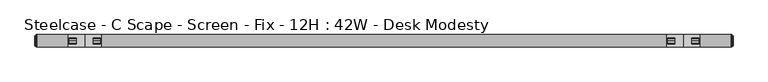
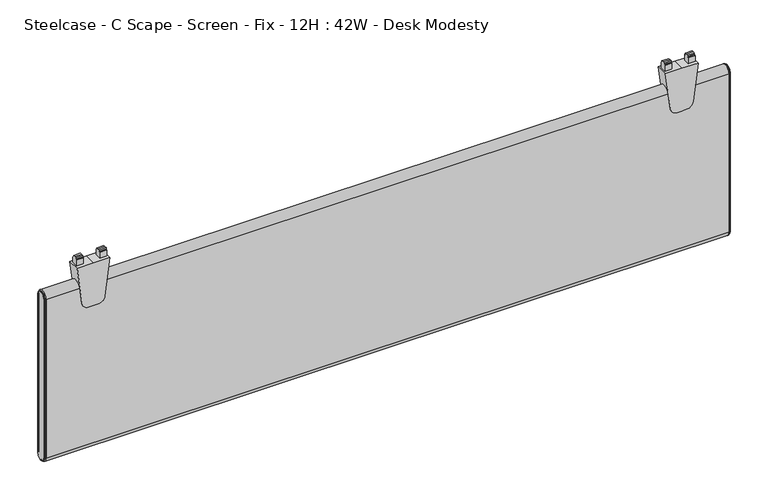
"""IFC4 building model written with IfcOpenShell, lengths in millimetres: furniture geometry, Steelcase - C Scape - Screen - Fix - 12H : 42W - Desk Modesty."""

from ifc_helpers import new_model, si_unit, point, frame, frame_2d, origin, place, context, project, spatial, polyline, circle_curve, ellipse_curve, trimmed, segment, composite_curve, outline, extrude, source, transform, mapped, element, save
from ifc_brep_helpers import plane_surface, cylinder_surface, revolved_surface, advanced_brep


def steelcase_c_scape_screen_fix_12h_42w_desk_modesty_56eae4fc(model_context):
    return source(origin(), model_context, "Body", "SolidModel", [
        extrude(outline(composite_curve([segment(polyline([(703.414888, 101.4730434), (703.414888, 76.2001674), (703.414888, 50.9272915), (643.0897579, 58.3341853)]), True, "CONTINUOUS"), segment(trimmed(circle_curve(frame_2d((644.4116282, 69.1001018)), 10.8467645), [point((643.0897579, 58.3341853))], [point((633.5648638, 69.1001018))], False, "CARTESIAN"), True, "CONTINUOUS"), segment(polyline([(633.5648638, 69.1001018), (633.5648638, 76.2001674), (633.5648638, 83.300233)]), True, "CONTINUOUS"), segment(trimmed(circle_curve(frame_2d((644.4116282, 83.300233)), 10.8467645), [point((633.5648638, 83.300233))], [point((643.0897579, 94.0661495))], False, "CARTESIAN"), True, "CONTINUOUS"), segment(polyline([(643.0897579, 94.0661495), (703.414888, 101.4730434)]), True, "CONTINUOUS")], self_intersect=False)), frame((0.0, -9.525, 0.0), z_axis=(0.0, 1.0, 0.0), x_axis=(0.0, 0.0, 1.0)), (0.0, 0.0, 1.0), 19.05),
        extrude(outline(polyline([(-4.5465975, 703.414888), (-4.5465975, 713.3208967), (-4.0139265, 714.2073252), (-2.9972008, 714.2073252), (-2.9972008, 716.4425812), (0.0, 716.534), (2.9972008, 716.4425812), (2.9972008, 714.2073252), (4.0139265, 714.2073252), (4.5465975, 713.3208967), (4.5465975, 703.414888), (0.0, 703.414888), (-4.5465975, 703.414888)])), frame((88.9267162, 0.0, 0.0), z_axis=(1.0, 0.0, 0.0), x_axis=(0.0, 1.0, 0.0)), (0.0, 0.0, 1.0), 10.7813187),
        extrude(outline(polyline([(-4.5465975, 703.414888), (-4.5465975, 713.3208967), (-4.0139265, 714.2073252), (-2.9972008, 714.2073252), (-2.9972008, 716.4425812), (0.0, 716.534), (2.9972008, 716.4425812), (2.9972008, 714.2073252), (4.0139265, 714.2073252), (4.5465975, 713.3208967), (4.5465975, 703.414888), (0.0, 703.414888), (-4.5465975, 703.414888)])), frame((52.6923, 0.0, 0.0), z_axis=(1.0, 0.0, 0.0), x_axis=(0.0, 1.0, 0.0)), (0.0, 0.0, 1.0), 10.7813187),
        extrude(outline(composite_curve([segment(polyline([(703.414888, 1015.1107132), (703.414888, 989.8378372), (703.414888, 964.5649612), (643.0897579, 971.9718551)]), True, "CONTINUOUS"), segment(trimmed(circle_curve(frame_2d((644.4116282, 982.7377716)), 10.8467645), [point((643.0897579, 971.9718551))], [point((633.5648638, 982.7377716))], False, "CARTESIAN"), True, "CONTINUOUS"), segment(polyline([(633.5648638, 982.7377716), (633.5648638, 989.8378372), (633.5648638, 996.9379028)]), True, "CONTINUOUS"), segment(trimmed(circle_curve(frame_2d((644.4116282, 996.9379028)), 10.8467645), [point((633.5648638, 996.9379028))], [point((643.0897579, 1007.7038193))], False, "CARTESIAN"), True, "CONTINUOUS"), segment(polyline([(643.0897579, 1007.7038193), (703.414888, 1015.1107132)]), True, "CONTINUOUS")], self_intersect=False)), frame((0.0, -9.525, 0.0), z_axis=(0.0, 1.0, 0.0), x_axis=(0.0, 0.0, 1.0)), (0.0, 0.0, 1.0), 19.05),
        extrude(outline(polyline([(-4.5465975, 703.414888), (-4.5465975, 713.3208967), (-4.0139265, 714.2073252), (-2.9972008, 714.2073252), (-2.9972008, 716.4425812), (0.0, 716.534), (2.9972008, 716.4425812), (2.9972008, 714.2073252), (4.0139265, 714.2073252), (4.5465975, 713.3208967), (4.5465975, 703.414888), (0.0, 703.414888), (-4.5465975, 703.414888)])), frame((1002.564386, 0.0, 0.0), z_axis=(1.0, 0.0, 0.0), x_axis=(0.0, 1.0, 0.0)), (0.0, 0.0, 1.0), 10.7813187),
        extrude(outline(polyline([(-4.5465975, 703.414888), (-4.5465975, 713.3208967), (-4.0139265, 714.2073252), (-2.9972008, 714.2073252), (-2.9972008, 716.4425812), (0.0, 716.534), (2.9972008, 716.4425812), (2.9972008, 714.2073252), (4.0139265, 714.2073252), (4.5465975, 713.3208967), (4.5465975, 703.414888), (0.0, 703.414888), (-4.5465975, 703.414888)])), frame((966.3299698, 0.0, 0.0), z_axis=(1.0, 0.0, 0.0), x_axis=(0.0, 1.0, 0.0)), (0.0, 0.0, 1.0), 10.7813187),
        advanced_brep(
        [(1063.2486613, -9.525, 668.909), (1063.2486613, 9.525, 668.909), (1063.2486613, 9.525, 408.559), (1063.2486613, -9.525, 408.559), (1066.0426613, 7.4929583, 668.909), (1066.0426613, -7.4929583, 668.909), (1066.0426613, -7.4929583, 408.559), (1066.0426613, 7.4929583, 408.559), (1065.5346545, -8.0009651, 668.909), (1065.5346545, 8.0009651, 668.909), (1064.2646613, 8.0009651, 668.909), (1064.2646613, -8.0009651, 668.909), (1064.2646613, -8.8204932, 668.909), (1064.2646613, 8.8204932, 668.909), (1064.2646613, -8.0009651, 408.559), (1065.5346545, -8.0009651, 408.559), (1064.2646613, -8.8204932, 408.559), (1064.2646613, 8.0009651, 408.559), (1065.5346545, 8.0009651, 408.559), (1064.2646613, 8.8204932, 408.559)],
        [
            (0, 1, circle_curve(frame((1063.2486613, 0.0, 668.909), z_axis=(-1.0, 0.0, 0.0), x_axis=(0.0, 1.0, 0.0)), 9.525)),
            (1, 2),
            (2, 3, circle_curve(frame((1063.2486613, 0.0, 408.559), z_axis=(-1.0, 0.0, 0.0), x_axis=(0.0, -1.0, 0.0)), 9.525)),
            (3, 0),
            (4, 5, circle_curve(frame((1066.0426613, 0.0, 668.909), z_axis=(1.0, 0.0, 0.0), x_axis=(0.0, 1.0, 0.0)), 7.4929583)),
            (5, 6),
            (6, 7, circle_curve(frame((1066.0426613, 0.0, 408.559), z_axis=(1.0, 0.0, 0.0), x_axis=(0.0, -1.0, 0.0)), 7.4929583)),
            (7, 4),
            (8, 9, circle_curve(frame((1065.5346545, 0.0, 668.909), z_axis=(-1.0, 0.0, 0.0), x_axis=(0.0, 1.0, 0.0)), 8.0009651)),
            (9, 10),
            (10, 11, circle_curve(frame((1064.2646613, 0.0, 668.909), z_axis=(1.0, 0.0, 0.0), x_axis=(0.0, 1.0, 0.0)), 8.0009651)),
            (11, 8),
            (8, 5, circle_curve(frame((1065.5346545, -7.4929583, 668.909), z_axis=(0.0, 0.0, 1.0), x_axis=(0.0, -1.0, 0.0)), 0.5080068)),
            (4, 9, circle_curve(frame((1065.5346545, 7.4929583, 668.909), z_axis=(0.0, 0.0, 1.0), x_axis=(0.0, 1.0, 0.0)), 0.5080068)),
            (12, 13, circle_curve(frame((1064.2646613, 0.0, 668.909), z_axis=(-1.0, 0.0, 0.0), x_axis=(0.0, 1.0, 0.0)), 8.8204932)),
            (13, 1, circle_curve(frame((1063.1806211, 8.3420139, 668.909), z_axis=(0.0, 0.0, 1.0), x_axis=(0.0, 1.0, 0.0)), 1.1849411)),
            (0, 12, circle_curve(frame((1063.1806211, -8.3420139, 668.909), z_axis=(0.0, 0.0, 1.0), x_axis=(0.0, -1.0, 0.0)), 1.1849411)),
            (11, 14),
            (14, 15),
            (15, 8),
            (15, 6, circle_curve(frame((1065.5346545, -7.4929583, 408.559), z_axis=(0.0, 0.0, 1.0), x_axis=(0.0, -1.0, 0.0)), 0.5080068)),
            (3, 16, circle_curve(frame((1063.1806211, -8.3420139, 408.559), z_axis=(0.0, 0.0, 1.0), x_axis=(0.0, -1.0, 0.0)), 1.1849411)),
            (16, 12),
            (14, 17, circle_curve(frame((1064.2646613, 0.0, 408.559), z_axis=(1.0, 0.0, 0.0), x_axis=(0.0, -1.0, 0.0)), 8.0009651)),
            (17, 18),
            (18, 15, circle_curve(frame((1065.5346545, 0.0, 408.559), z_axis=(-1.0, 0.0, 0.0), x_axis=(0.0, -1.0, 0.0)), 8.0009651)),
            (18, 7, circle_curve(frame((1065.5346545, 7.4929583, 408.559), z_axis=(0.0, 0.0, -1.0), x_axis=(0.0, 1.0, 0.0)), 0.5080068)),
            (2, 19, circle_curve(frame((1063.1806211, 8.3420139, 408.559), z_axis=(0.0, 0.0, -1.0), x_axis=(0.0, 1.0, 0.0)), 1.1849411)),
            (19, 16, circle_curve(frame((1064.2646613, 0.0, 408.559), z_axis=(-1.0, 0.0, 0.0), x_axis=(0.0, -1.0, 0.0)), 8.8204932)),
            (9, 18),
            (17, 10),
            (13, 19),
        ],
        [
            plane_surface(frame((1063.2486613, -6.3509705, 668.909), z_axis=(-1.0, 0.0, 0.0), x_axis=(0.0, 0.0, 1.0))),
            plane_surface(frame((1066.0426613, -6.3509705, 668.909), z_axis=(1.0, 0.0, 0.0), x_axis=(0.0, 0.0, -1.0))),
            cylinder_surface(frame((1063.2486613, 0.0, 668.909), z_axis=(1.0, 0.0, 0.0), x_axis=(0.0, 1.0, 0.0)), 8.0009651),
            revolved_surface(trimmed(ellipse_curve(frame((1065.5346545, 7.4929583, 668.909), z_axis=(0.0, 0.0, -1.0), x_axis=(0.0, 1.0, 0.0)), 0.5080068, 0.5080068), [point((1065.5346545, 8.0009651, 668.909))], [point((1066.0426613, 7.4929583, 668.909))], True, "CARTESIAN"), (1063.2486613, 0.0, 668.909), (1.0, 0.0, 0.0)),
            revolved_surface(trimmed(ellipse_curve(frame((1063.1806211, 8.3420139, 668.909), z_axis=(0.0, 0.0, -1.0), x_axis=(0.0, 1.0, 0.0)), 1.1849411, 1.1849411), [point((1063.2486613, 9.525, 668.909))], [point((1064.2646613, 8.8204932, 668.909))], True, "CARTESIAN"), (1063.2486613, 0.0, 668.909), (1.0, 0.0, 0.0)),
            plane_surface(frame((1064.2646613, -8.0009651, 668.909), z_axis=(0.0, -1.0, 0.0), x_axis=(0.0, 0.0, -1.0))),
            cylinder_surface(frame((1065.5346545, -7.4929583, 668.909), z_axis=(0.0, 0.0, 1.0), x_axis=(0.0, -1.0, 0.0)), 0.5080068),
            cylinder_surface(frame((1063.1806211, -8.3420139, 668.909), z_axis=(0.0, 0.0, 1.0), x_axis=(0.0, -1.0, 0.0)), 1.1849411),
            cylinder_surface(frame((1063.2486613, 0.0, 408.559), z_axis=(1.0, 0.0, 0.0), x_axis=(0.0, -1.0, 0.0)), 8.0009651),
            revolved_surface(trimmed(ellipse_curve(frame((1065.5346545, -7.4929583, 408.559), z_axis=(0.0, 0.0, 1.0), x_axis=(0.0, -1.0, 0.0)), 0.5080068, 0.5080068), [point((1065.5346545, -8.0009651, 408.559))], [point((1066.0426613, -7.4929583, 408.559))], True, "CARTESIAN"), (1063.2486613, 0.0, 408.559), (1.0, 0.0, 0.0)),
            revolved_surface(trimmed(ellipse_curve(frame((1063.1806211, -8.3420139, 408.559), z_axis=(0.0, 0.0, 1.0), x_axis=(0.0, -1.0, 0.0)), 1.1849411, 1.1849411), [point((1063.2486613, -9.525, 408.559))], [point((1064.2646613, -8.8204932, 408.559))], True, "CARTESIAN"), (1063.2486613, 0.0, 408.559), (1.0, 0.0, 0.0)),
            plane_surface(frame((1064.2646613, 8.0009651, 408.559), z_axis=(0.0, 1.0, 0.0), x_axis=(0.0, 0.0, 1.0))),
            cylinder_surface(frame((1065.5346545, 7.4929583, 408.559), z_axis=(0.0, 0.0, -1.0), x_axis=(0.0, 1.0, 0.0)), 0.5080068),
            cylinder_surface(frame((1063.1806211, 8.3420139, 408.559), z_axis=(0.0, 0.0, -1.0), x_axis=(0.0, 1.0, 0.0)), 1.1849411),
            plane_surface(frame((1064.2646613, 8.8204932, 408.559), z_axis=(1.0, 0.0, 0.0), x_axis=(0.0, 0.0, 1.0))),
        ],
        [
            (0, [[1, 2, 3, 4]]),
            (1, [[5, 6, 7, 8]]),
            (2, [[9, 10, 11, 12]]),
            (3, [[-9, 13, -5, 14]]),
            (4, [[15, 16, -1, 17]]),
            (5, [[-12, 18, 19, 20]]),
            (6, [[-13, -20, 21, -6]]),
            (7, [[-17, -4, 22, 23]]),
            (8, [[-19, 24, 25, 26]]),
            (9, [[-21, -26, 27, -7]]),
            (10, [[-22, -3, 28, 29]]),
            (11, [[-10, 30, -25, 31]]),
            (12, [[-14, -8, -27, -30]]),
            (13, [[-16, 32, -28, -2]]),
            (14, [[-15, -23, -29, -32], [-11, -31, -24, -18]]),
        ],
    ),
        advanced_brep(
        [(2.7940155, 9.525, 668.909), (2.7940155, -9.525, 668.909), (2.7940155, -9.525, 408.559), (2.7940155, 9.525, 408.559), (0.0, -7.4929583, 668.909), (0.0, 7.4929583, 668.909), (0.0, 7.4929583, 408.559), (0.0, -7.4929583, 408.559), (1.778, 8.8204932, 668.909), (1.778, -8.8204932, 668.909), (0.5080068, -8.0009651, 668.909), (0.5080068, 8.0009651, 668.909), (1.778, -8.0009651, 668.909), (1.778, 8.0009651, 668.909), (1.778, -8.8204932, 408.559), (0.5080068, -8.0009651, 408.559), (1.778, -8.0009651, 408.559), (1.778, 8.8204932, 408.559), (0.5080068, 8.0009651, 408.559), (1.778, 8.0009651, 408.559)],
        [
            (0, 1, circle_curve(frame((2.7940155, 0.0, 668.909), z_axis=(1.0, 0.0, 0.0), x_axis=(0.0, 1.0, 0.0)), 9.525)),
            (1, 2),
            (2, 3, circle_curve(frame((2.7940155, 0.0, 408.559), z_axis=(1.0, 0.0, 0.0), x_axis=(0.0, -1.0, 0.0)), 9.525)),
            (3, 0),
            (4, 5, circle_curve(frame((0.0, 0.0, 668.909), z_axis=(-1.0, 0.0, 0.0), x_axis=(0.0, 1.0, 0.0)), 7.4929583)),
            (5, 6),
            (6, 7, circle_curve(frame((0.0, 0.0, 408.559), z_axis=(-1.0, 0.0, 0.0), x_axis=(0.0, -1.0, 0.0)), 7.4929583)),
            (7, 4),
            (0, 8, circle_curve(frame((2.8620402, 8.3420139, 668.909), z_axis=(0.0, 0.0, 1.0), x_axis=(0.0, -1.0, 0.0)), 1.1849411)),
            (8, 9, circle_curve(frame((1.778, 0.0, 668.909), z_axis=(1.0, 0.0, 0.0), x_axis=(0.0, 1.0, 0.0)), 8.8204932)),
            (9, 1, circle_curve(frame((2.8620402, -8.3420139, 668.909), z_axis=(0.0, 0.0, 1.0), x_axis=(0.0, 1.0, 0.0)), 1.1849411)),
            (10, 11, circle_curve(frame((0.5080068, 0.0, 668.909), z_axis=(-1.0, 0.0, 0.0), x_axis=(0.0, 1.0, 0.0)), 8.0009651)),
            (11, 5, circle_curve(frame((0.5080068, 7.4929583, 668.909), z_axis=(0.0, 0.0, 1.0), x_axis=(0.0, -1.0, 0.0)), 0.5080068)),
            (4, 10, circle_curve(frame((0.5080068, -7.4929583, 668.909), z_axis=(0.0, 0.0, 1.0), x_axis=(0.0, 1.0, 0.0)), 0.5080068)),
            (10, 12),
            (12, 13, circle_curve(frame((1.778, 0.0, 668.909), z_axis=(-1.0, 0.0, 0.0), x_axis=(0.0, 1.0, 0.0)), 8.0009651)),
            (13, 11),
            (9, 14),
            (14, 2, circle_curve(frame((2.8620402, -8.3420139, 408.559), z_axis=(0.0, 0.0, 1.0), x_axis=(0.0, 1.0, 0.0)), 1.1849411)),
            (7, 15, circle_curve(frame((0.5080068, -7.4929583, 408.559), z_axis=(0.0, 0.0, 1.0), x_axis=(0.0, 1.0, 0.0)), 0.5080068)),
            (15, 10),
            (15, 16),
            (16, 12),
            (14, 17, circle_curve(frame((1.778, 0.0, 408.559), z_axis=(1.0, 0.0, 0.0), x_axis=(0.0, -1.0, 0.0)), 8.8204932)),
            (17, 3, circle_curve(frame((2.8620402, 8.3420139, 408.559), z_axis=(0.0, 0.0, -1.0), x_axis=(0.0, -1.0, 0.0)), 1.1849411)),
            (6, 18, circle_curve(frame((0.5080068, 7.4929583, 408.559), z_axis=(0.0, 0.0, -1.0), x_axis=(0.0, -1.0, 0.0)), 0.5080068)),
            (18, 15, circle_curve(frame((0.5080068, 0.0, 408.559), z_axis=(-1.0, 0.0, 0.0), x_axis=(0.0, -1.0, 0.0)), 8.0009651)),
            (18, 19),
            (19, 16, circle_curve(frame((1.778, 0.0, 408.559), z_axis=(-1.0, 0.0, 0.0), x_axis=(0.0, -1.0, 0.0)), 8.0009651)),
            (8, 17),
            (19, 13),
            (11, 18),
        ],
        [
            plane_surface(frame((2.7940155, -6.3509705, 668.909), z_axis=(1.0, 0.0, 0.0), x_axis=(0.0, 0.0, -1.0))),
            plane_surface(frame((0.0, -6.3509705, 668.909), z_axis=(-1.0, 0.0, 0.0), x_axis=(0.0, 0.0, 1.0))),
            revolved_surface(trimmed(ellipse_curve(frame((2.8620402, 8.3420139, 668.909), z_axis=(0.0, 0.0, -1.0), x_axis=(0.0, -1.0, 0.0)), 1.1849411, 1.1849411), [point((1.778, 8.8204932, 668.909))], [point((2.794, 9.525, 668.909))], True, "CARTESIAN"), (2.794, 0.0, 668.909), (1.0, 0.0, 0.0)),
            revolved_surface(trimmed(ellipse_curve(frame((0.5080068, 7.4929583, 668.909), z_axis=(0.0, 0.0, -1.0), x_axis=(0.0, -1.0, 0.0)), 0.5080068, 0.5080068), [point((0.0, 7.4929583, 668.909))], [point((0.5080068, 8.0009651, 668.909))], True, "CARTESIAN"), (2.794, 0.0, 668.909), (1.0, 0.0, 0.0)),
            cylinder_surface(frame((2.794, 0.0, 668.909), z_axis=(1.0, 0.0, 0.0), x_axis=(0.0, 1.0, 0.0)), 8.0009651),
            cylinder_surface(frame((2.8620402, -8.3420139, 668.909), z_axis=(0.0, 0.0, 1.0), x_axis=(0.0, 1.0, 0.0)), 1.1849411),
            cylinder_surface(frame((0.5080068, -7.4929583, 668.909), z_axis=(0.0, 0.0, 1.0), x_axis=(0.0, 1.0, 0.0)), 0.5080068),
            plane_surface(frame((0.5080068, -8.0009651, 668.909), z_axis=(0.0, -1.0, 0.0), x_axis=(0.0, 0.0, -1.0))),
            revolved_surface(trimmed(ellipse_curve(frame((2.8620402, -8.3420139, 408.559), z_axis=(0.0, 0.0, 1.0), x_axis=(0.0, 1.0, 0.0)), 1.1849411, 1.1849411), [point((1.778, -8.8204932, 408.559))], [point((2.794, -9.525, 408.559))], True, "CARTESIAN"), (2.794, 0.0, 408.559), (1.0, 0.0, 0.0)),
            revolved_surface(trimmed(ellipse_curve(frame((0.5080068, -7.4929583, 408.559), z_axis=(0.0, 0.0, 1.0), x_axis=(0.0, 1.0, 0.0)), 0.5080068, 0.5080068), [point((0.0, -7.4929583, 408.559))], [point((0.5080068, -8.0009651, 408.559))], True, "CARTESIAN"), (2.794, 0.0, 408.559), (1.0, 0.0, 0.0)),
            cylinder_surface(frame((2.794, 0.0, 408.559), z_axis=(1.0, 0.0, 0.0), x_axis=(0.0, -1.0, 0.0)), 8.0009651),
            plane_surface(frame((1.778, 8.0009651, 408.559), z_axis=(-1.0, 0.0, 0.0), x_axis=(0.0, 0.0, 1.0))),
            cylinder_surface(frame((2.8620402, 8.3420139, 408.559), z_axis=(0.0, 0.0, -1.0), x_axis=(0.0, -1.0, 0.0)), 1.1849411),
            cylinder_surface(frame((0.5080068, 7.4929583, 408.559), z_axis=(0.0, 0.0, -1.0), x_axis=(0.0, -1.0, 0.0)), 0.5080068),
            plane_surface(frame((0.5080068, 8.0009651, 408.559), z_axis=(0.0, 1.0, 0.0), x_axis=(0.0, 0.0, 1.0))),
        ],
        [
            (0, [[1, 2, 3, 4]]),
            (1, [[5, 6, 7, 8]]),
            (2, [[-1, 9, 10, 11]]),
            (3, [[12, 13, -5, 14]]),
            (4, [[-12, 15, 16, 17]]),
            (5, [[-11, 18, 19, -2]]),
            (6, [[-14, -8, 20, 21]]),
            (7, [[-15, -21, 22, 23]]),
            (8, [[-19, 24, 25, -3]]),
            (9, [[-20, -7, 26, 27]]),
            (10, [[-22, -27, 28, 29]]),
            (11, [[-10, 30, -24, -18], [-16, -23, -29, 31]]),
            (12, [[-9, -4, -25, -30]]),
            (13, [[-13, 32, -26, -6]]),
            (14, [[-17, -31, -28, -32]]),
        ],
    ),
        extrude(outline(composite_curve([segment(trimmed(circle_curve(frame_2d((0.0, 668.909)), 9.525), [point((-9.525, 668.909))], [point((9.525, 668.909))], False, "CARTESIAN"), True, "CONTINUOUS"), segment(polyline([(9.525, 668.909), (9.525, 408.559)]), True, "CONTINUOUS"), segment(trimmed(circle_curve(frame_2d((0.0, 408.559)), 9.525), [point((9.525, 408.559))], [point((-9.525, 408.559))], False, "CARTESIAN"), True, "CONTINUOUS"), segment(polyline([(-9.525, 408.559), (-9.525, 668.909)]), True, "CONTINUOUS")], self_intersect=False)), frame((2.794, 0.0, 0.0), z_axis=(1.0, 0.0, 0.0), x_axis=(0.0, 1.0, 0.0)), (0.0, 0.0, 1.0), 1060.4546613),
    ])


if __name__ == "__main__":
    model = new_model("IFC4")
    model_context = context("Model", 3, world=origin())
    ifc_project = project(units=[si_unit("LENGTHUNIT", "METRE", prefix="MILLI")], contexts=[model_context])
    site = spatial("IfcSite", under=ifc_project)
    building = spatial("IfcBuilding", under=site)
    placement = place(None, origin())
    steelcase_c_scape_screen_fix_12h_42w_desk_modesty_shape = steelcase_c_scape_screen_fix_12h_42w_desk_modesty_56eae4fc(model_context)
    element("IfcFurniture", 1, ObjectType="Steelcase - C Scape - Screen - Fix - 12H : 42W - Desk Modesty", at=placement, inside=building, context=model_context, shape_type="MappedRepresentation", body=[
        mapped(steelcase_c_scape_screen_fix_12h_42w_desk_modesty_shape, transform((0.0, 0.0, 0.0), x_axis=(1.0, 0.0, 0.0), y_axis=(0.0, 1.0, 0.0), z_axis=(0.0, 0.0, 1.0))),
    ])
    save(model, "model.ifc")
